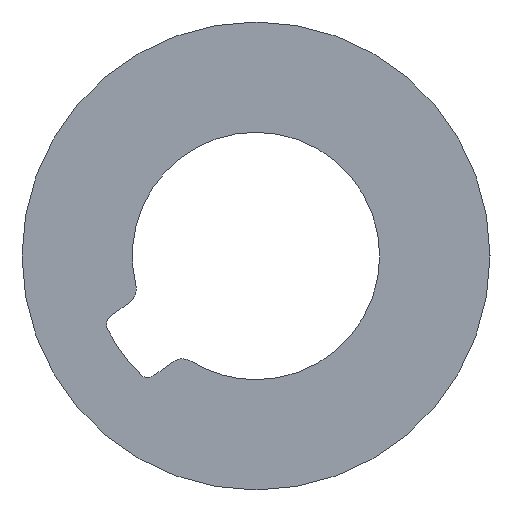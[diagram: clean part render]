
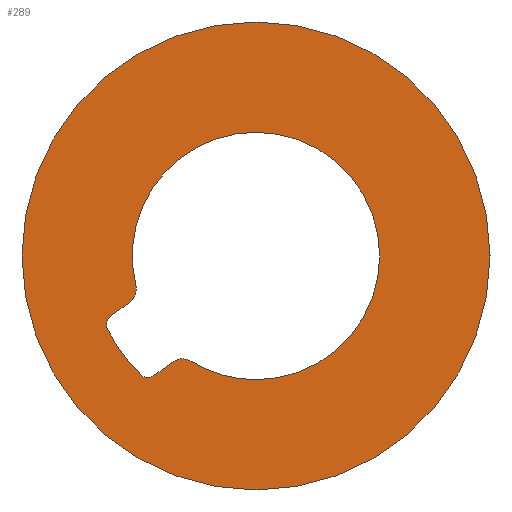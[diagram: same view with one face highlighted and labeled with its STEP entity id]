
A CAD part, left-side view. The second image highlights one B-rep face of the part: STEP entity #289.
In plain terms, the highlighted planar face has unit normal (-1, 0, 0).
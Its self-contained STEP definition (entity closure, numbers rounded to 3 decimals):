
#16 = AXIS2_PLACEMENT_3D ( 'NONE', #384, #383, #382 ) ;
#33 = AXIS2_PLACEMENT_3D ( 'NONE', #464, #463, #460 ) ;
#35 = AXIS2_PLACEMENT_3D ( 'NONE', #480, #478, #477 ) ;
#37 = AXIS2_PLACEMENT_3D ( 'NONE', #492, #490, #489 ) ;
#39 = AXIS2_PLACEMENT_3D ( 'NONE', #506, #505, #503 ) ;
#42 = AXIS2_PLACEMENT_3D ( 'NONE', #347, #346, #345 ) ;
#43 = AXIS2_PLACEMENT_3D ( 'NONE', #380, #373, #370 ) ;
#44 = AXIS2_PLACEMENT_3D ( 'NONE', #398, #387, #386 ) ;
#45 = AXIS2_PLACEMENT_3D ( 'NONE', #421, #418, #414 ) ;
#46 = AXIS2_PLACEMENT_3D ( 'NONE', #436, #433, #429 ) ;
#47 = AXIS2_PLACEMENT_3D ( 'NONE', #455, #451, #450 ) ;
#48 = AXIS2_PLACEMENT_3D ( 'NONE', #462, #461, #459 ) ;
#49 = EDGE_CURVE ( 'NONE', #452, #447, #99, .T. ) ;
#50 = EDGE_CURVE ( 'NONE', #488, #523, #95, .T. ) ;
#51 = EDGE_CURVE ( 'NONE', #438, #473, #98, .T. ) ;
#52 = EDGE_CURVE ( 'NONE', #473, #491, #92, .T. ) ;
#53 = EDGE_CURVE ( 'NONE', #485, #482, #89, .T. ) ;
#54 = EDGE_CURVE ( 'NONE', #482, #510, #91, .T. ) ;
#55 = EDGE_CURVE ( 'NONE', #510, #452, #267, .T. ) ;
#56 = EDGE_CURVE ( 'NONE', #447, #507, #266, .T. ) ;
#57 = EDGE_CURVE ( 'NONE', #507, #438, #263, .T. ) ;
#68 = EDGE_CURVE ( 'NONE', #523, #488, #228, .T. ) ;
#72 = EDGE_CURVE ( 'NONE', #513, #499, #222, .T. ) ;
#75 = EDGE_CURVE ( 'NONE', #491, #513, #216, .T. ) ;
#79 = EDGE_CURVE ( 'NONE', #499, #485, #209, .T. ) ;
#88 = VECTOR ( 'NONE', #404, 1000. ) ;
#89 = CIRCLE ( 'NONE', #45, 0.5 ) ;
#91 = LINE ( 'NONE', #408, #88 ) ;
#92 = CIRCLE ( 'NONE', #46, 0.5 ) ;
#94 = VECTOR ( 'NONE', #444, 1000. ) ;
#95 = CIRCLE ( 'NONE', #47, 7. ) ;
#98 = LINE ( 'NONE', #445, #94 ) ;
#99 = CIRCLE ( 'NONE', #48, 0.3 ) ;
#106 = EDGE_LOOP ( 'NONE', ( #213, #214, #220, #268, #269, #271, #272, #274, #275, #273, #277 ) ) ;
#116 = EDGE_LOOP ( 'NONE', ( #203, #205 ) ) ;
#172 = FACE_BOUND ( 'NONE', #106, .T. ) ;
#173 = FACE_OUTER_BOUND ( 'NONE', #116, .T. ) ;
#203 = ORIENTED_EDGE ( 'NONE', *, *, #50, .F. ) ;
#205 = ORIENTED_EDGE ( 'NONE', *, *, #68, .F. ) ;
#209 = CIRCLE ( 'NONE', #33, 3.7 ) ;
#213 = ORIENTED_EDGE ( 'NONE', *, *, #51, .T. ) ;
#214 = ORIENTED_EDGE ( 'NONE', *, *, #52, .T. ) ;
#216 = CIRCLE ( 'NONE', #35, 3.7 ) ;
#220 = ORIENTED_EDGE ( 'NONE', *, *, #75, .T. ) ;
#222 = CIRCLE ( 'NONE', #37, 3.7 ) ;
#228 = CIRCLE ( 'NONE', #39, 7. ) ;
#263 = CIRCLE ( 'NONE', #42, 0.3 ) ;
#266 = CIRCLE ( 'NONE', #43, 4.95 ) ;
#267 = CIRCLE ( 'NONE', #44, 0.3 ) ;
#268 = ORIENTED_EDGE ( 'NONE', *, *, #72, .T. ) ;
#269 = ORIENTED_EDGE ( 'NONE', *, *, #79, .T. ) ;
#271 = ORIENTED_EDGE ( 'NONE', *, *, #53, .T. ) ;
#272 = ORIENTED_EDGE ( 'NONE', *, *, #54, .T. ) ;
#273 = ORIENTED_EDGE ( 'NONE', *, *, #56, .T. ) ;
#274 = ORIENTED_EDGE ( 'NONE', *, *, #55, .T. ) ;
#275 = ORIENTED_EDGE ( 'NONE', *, *, #49, .T. ) ;
#277 = ORIENTED_EDGE ( 'NONE', *, *, #57, .T. ) ;
#289 = ADVANCED_FACE ( 'NONE', ( #173, #172 ), #385, .F. ) ;
#325 = CARTESIAN_POINT ( 'NONE',  ( -114.5, 0., -7. ) ) ;
#327 = CARTESIAN_POINT ( 'NONE',  ( -114.5, 0., 3.7 ) ) ;
#328 = CARTESIAN_POINT ( 'NONE',  ( -114.5, 3.059, -3.582 ) ) ;
#329 = CARTESIAN_POINT ( 'NONE',  ( -114.5, 4.445, -2.177 ) ) ;
#332 = CARTESIAN_POINT ( 'NONE',  ( -114.5, 0., -3.7 ) ) ;
#334 = CARTESIAN_POINT ( 'NONE',  ( -114.5, 3.596, -0.87 ) ) ;
#335 = CARTESIAN_POINT ( 'NONE',  ( -114.5, 0., 7. ) ) ;
#336 = CARTESIAN_POINT ( 'NONE',  ( -114.5, 1.939, -3.151 ) ) ;
#337 = CARTESIAN_POINT ( 'NONE',  ( -114.5, 2.495, -3.172 ) ) ;
#340 = CARTESIAN_POINT ( 'NONE',  ( -114.5, 3.788, -1.393 ) ) ;
#345 = DIRECTION ( 'NONE',  ( 0., 0., -1. ) ) ;
#346 = DIRECTION ( 'NONE',  ( 1., 0., 0. ) ) ;
#347 = CARTESIAN_POINT ( 'NONE',  ( -114.5, 4.176, -2.045 ) ) ;
#348 = CARTESIAN_POINT ( 'NONE',  ( -114.5, 3.236, -3.64 ) ) ;
#349 = CARTESIAN_POINT ( 'NONE',  ( -114.5, 3.444, -3.555 ) ) ;
#351 = CARTESIAN_POINT ( 'NONE',  ( -114.5, 4.352, -1.803 ) ) ;
#370 = DIRECTION ( 'NONE',  ( 0., 0., 1. ) ) ;
#373 = DIRECTION ( 'NONE',  ( 1., 0., 0. ) ) ;
#380 = CARTESIAN_POINT ( 'NONE',  ( -114.5, 0., 0. ) ) ;
#382 = DIRECTION ( 'NONE',  ( 0., 0., -1. ) ) ;
#383 = DIRECTION ( 'NONE',  ( 1., 0., 0. ) ) ;
#384 = CARTESIAN_POINT ( 'NONE',  ( -114.5, 0., 0. ) ) ;
#385 = PLANE ( 'NONE',  #16 ) ;
#386 = DIRECTION ( 'NONE',  ( 0., 0., 1. ) ) ;
#387 = DIRECTION ( 'NONE',  ( 1., 0., 0. ) ) ;
#398 = CARTESIAN_POINT ( 'NONE',  ( -114.5, 3.236, -3.34 ) ) ;
#404 = DIRECTION ( 'NONE',  ( 0., 0.809, -0.588 ) ) ;
#408 = CARTESIAN_POINT ( 'NONE',  ( -114.5, 3.059, -3.582 ) ) ;
#414 = DIRECTION ( 'NONE',  ( 0., 0., -1. ) ) ;
#418 = DIRECTION ( 'NONE',  ( -1., 0., 0. ) ) ;
#421 = CARTESIAN_POINT ( 'NONE',  ( -114.5, 2.201, -3.577 ) ) ;
#429 = DIRECTION ( 'NONE',  ( 0., 0., 1. ) ) ;
#433 = DIRECTION ( 'NONE',  ( -1., 0., 0. ) ) ;
#436 = CARTESIAN_POINT ( 'NONE',  ( -114.5, 4.082, -0.988 ) ) ;
#438 = VERTEX_POINT ( 'NONE', #351 ) ;
#444 = DIRECTION ( 'NONE',  ( 0., -0.809, 0.588 ) ) ;
#445 = CARTESIAN_POINT ( 'NONE',  ( -114.5, 3.788, -1.393 ) ) ;
#447 = VERTEX_POINT ( 'NONE', #349 ) ;
#450 = DIRECTION ( 'NONE',  ( 0., 0., -1. ) ) ;
#451 = DIRECTION ( 'NONE',  ( 1., 0., 0. ) ) ;
#452 = VERTEX_POINT ( 'NONE', #348 ) ;
#455 = CARTESIAN_POINT ( 'NONE',  ( -114.5, 0., 0. ) ) ;
#459 = DIRECTION ( 'NONE',  ( 0., 0., 1. ) ) ;
#460 = DIRECTION ( 'NONE',  ( 0., 0., -1. ) ) ;
#461 = DIRECTION ( 'NONE',  ( 1., 0., 0. ) ) ;
#462 = CARTESIAN_POINT ( 'NONE',  ( -114.5, 3.236, -3.34 ) ) ;
#463 = DIRECTION ( 'NONE',  ( 1., 0., 0. ) ) ;
#464 = CARTESIAN_POINT ( 'NONE',  ( -114.5, 0., 0. ) ) ;
#473 = VERTEX_POINT ( 'NONE', #340 ) ;
#477 = DIRECTION ( 'NONE',  ( 0., 0., -1. ) ) ;
#478 = DIRECTION ( 'NONE',  ( 1., 0., 0. ) ) ;
#480 = CARTESIAN_POINT ( 'NONE',  ( -114.5, 0., 0. ) ) ;
#482 = VERTEX_POINT ( 'NONE', #337 ) ;
#485 = VERTEX_POINT ( 'NONE', #336 ) ;
#488 = VERTEX_POINT ( 'NONE', #335 ) ;
#489 = DIRECTION ( 'NONE',  ( 0., 0., -1. ) ) ;
#490 = DIRECTION ( 'NONE',  ( 1., 0., 0. ) ) ;
#491 = VERTEX_POINT ( 'NONE', #334 ) ;
#492 = CARTESIAN_POINT ( 'NONE',  ( -114.5, 0., 0. ) ) ;
#499 = VERTEX_POINT ( 'NONE', #332 ) ;
#503 = DIRECTION ( 'NONE',  ( 0., 0., -1. ) ) ;
#505 = DIRECTION ( 'NONE',  ( 1., 0., 0. ) ) ;
#506 = CARTESIAN_POINT ( 'NONE',  ( -114.5, 0., 0. ) ) ;
#507 = VERTEX_POINT ( 'NONE', #329 ) ;
#510 = VERTEX_POINT ( 'NONE', #328 ) ;
#513 = VERTEX_POINT ( 'NONE', #327 ) ;
#523 = VERTEX_POINT ( 'NONE', #325 ) ;
